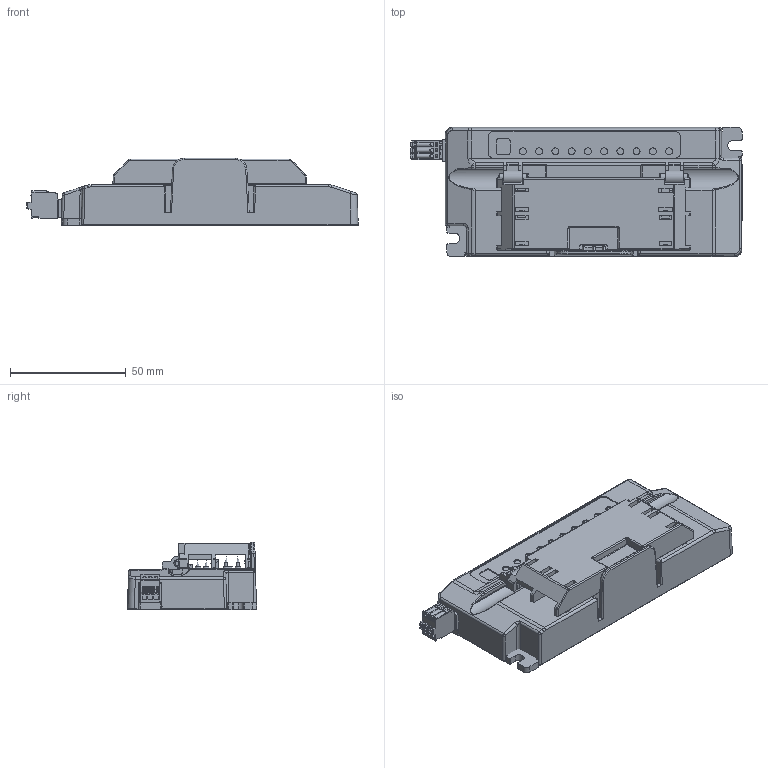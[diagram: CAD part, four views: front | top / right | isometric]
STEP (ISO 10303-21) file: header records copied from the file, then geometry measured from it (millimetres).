
FILE_DESCRIPTION(/* description */ (''),/* implementation_level */ '2;1');
FILE_NAME(/* name */ '老外驱-4.2.stp',/* time_stamp */ '2026-03-31T10:03:52+08:00',/* author */ (''),/* organization */ (''),/* preprocessor_version */ 'ST-DEVELOPER v19.4',/* originating_system */ 'SIEMENS PLM Software NX2212.7001',/* authorisation */ '');
FILE_SCHEMA (('AUTOMOTIVE_DESIGN { 1 0 10303 214 3 1 1 1 }'));
Products named in the file (1): 老外驱-4.2_stp_objects
Bounding box: 143.12 x 55.78 x 29 mm (x, y, z)
Volume: 135949.1 mm3; surface area: 53063.6 mm2
Topology: 10 solids, 10 shells, 1940 faces, 5239 edges, 3394 vertices
Faces by surface type: plane 1300, cylinder 476, cone 43, extrusion 32, sphere 32, torus 30, bspline 27
Full cylindrical faces by diameter (mm): 1 x4, 1.25 x4, 1.7 x4, 2.4 x8, 2.95 x2, 3 x10, 3.2 x4
Entity records: 63138 total; most frequent: CARTESIAN_POINT 13519, ORIENTED_EDGE 10216, DIRECTION 9480, EDGE_CURVE 5108, VECTOR 3892, LINE 3860, VERTEX_POINT 3366, AXIS2_PLACEMENT_3D 2794
